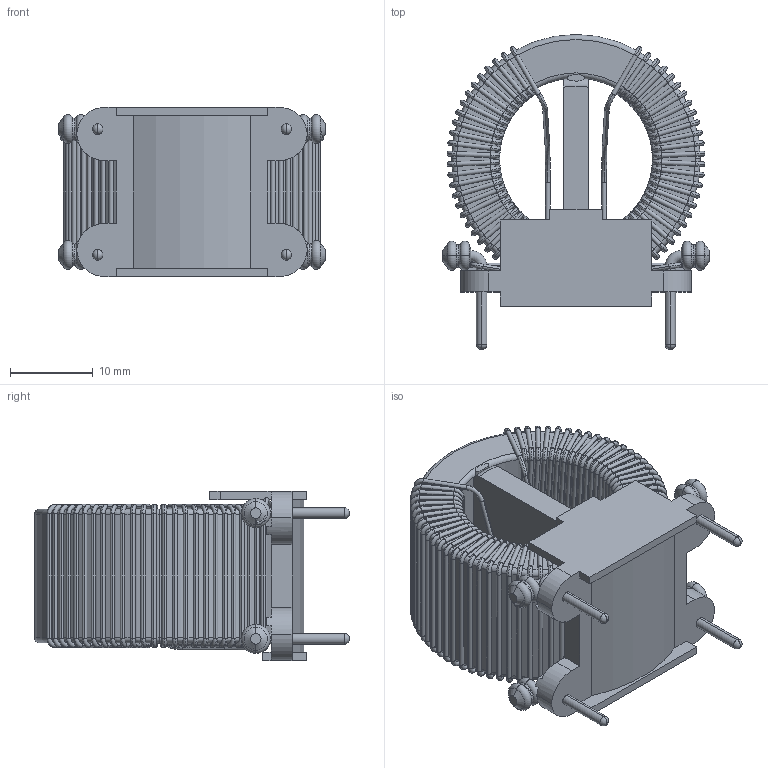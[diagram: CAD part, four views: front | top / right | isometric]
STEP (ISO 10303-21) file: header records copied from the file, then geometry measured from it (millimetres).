
FILE_DESCRIPTION (( 'STEP AP203' ), '1' );
FILE_NAME ('PM-16-203U-3A .STEP', '2021-01-23T08:02:17', ( '' ), ( '' ), 'SwSTEP 2.0', 'SolidWorks 2015', '' );
FILE_SCHEMA (( 'CONFIG_CONTROL_DESIGN' ));
Length unit declared in the file: millimetre
Products named in the file (6): EPOXY; BASE; CORE; WINDING; SPACER; PM-16-203U-3A 
Assembly tree (5 placements, depth 2):
  PM-16-203U-3A 
    BASE
    CORE
    SPACER
    WINDING
    EPOXY
Bounding box: 32.32 x 38.14 x 20.5 mm (x, y, z)
Volume: 9853.6 mm3; surface area: 10620.5 mm2
Topology: 15 solids, 15 shells, 1182 faces, 3264 edges, 2112 vertices
Faces by surface type: cylinder 580, torus 488, plane 78, bspline 20, cone 16
Entity records: 44188 total; most frequent: CARTESIAN_POINT 11262, DIRECTION 8028, ORIENTED_EDGE 6528, AXIS2_PLACEMENT_3D 3646, EDGE_CURVE 3264, CIRCLE 2476, VERTEX_POINT 2112, EDGE_LOOP 1192
